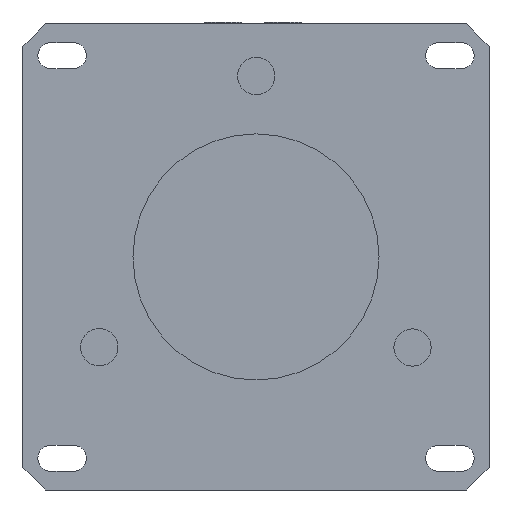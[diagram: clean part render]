
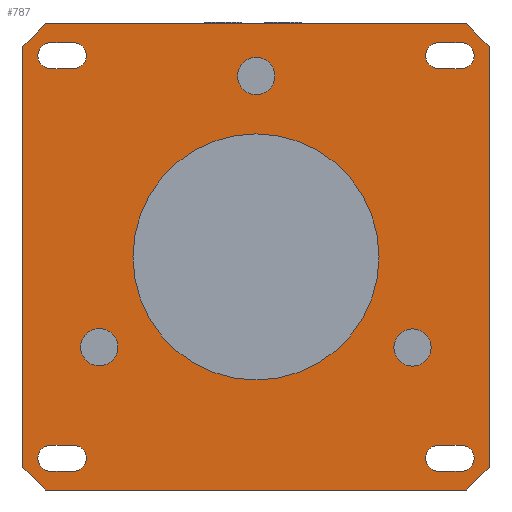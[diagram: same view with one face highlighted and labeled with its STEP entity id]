
A CAD part, front view. The second image highlights one B-rep face of the part: STEP entity #787.
In plain terms, the highlighted planar face has unit normal (0, -1, 0).
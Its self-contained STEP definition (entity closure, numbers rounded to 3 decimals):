
#301=FACE_BOUND('',#1149,.T.);
#302=FACE_BOUND('',#1150,.T.);
#303=FACE_BOUND('',#1151,.T.);
#304=FACE_BOUND('',#1152,.T.);
#305=FACE_BOUND('',#1153,.T.);
#306=FACE_BOUND('',#1154,.T.);
#307=FACE_BOUND('',#1155,.T.);
#308=FACE_BOUND('',#1156,.T.);
#309=FACE_BOUND('',#1157,.T.);
#490=LINE('',#3774,#642);
#491=LINE('',#3778,#643);
#492=LINE('',#3782,#644);
#493=LINE('',#3786,#645);
#494=LINE('',#3790,#646);
#495=LINE('',#3794,#647);
#496=LINE('',#3795,#648);
#497=LINE('',#3800,#649);
#498=LINE('',#3805,#650);
#499=LINE('',#3808,#651);
#500=LINE('',#3810,#652);
#501=LINE('',#3812,#653);
#502=LINE('',#3814,#654);
#503=LINE('',#3816,#655);
#504=LINE('',#3818,#656);
#505=LINE('',#3820,#657);
#642=VECTOR('',#3135,1.);
#643=VECTOR('',#3138,1.);
#644=VECTOR('',#3141,1.);
#645=VECTOR('',#3144,1.);
#646=VECTOR('',#3147,1.);
#647=VECTOR('',#3150,1.);
#648=VECTOR('',#3151,1.);
#649=VECTOR('',#3154,1.);
#650=VECTOR('',#3159,1.);
#651=VECTOR('',#3160,1.);
#652=VECTOR('',#3161,1.);
#653=VECTOR('',#3162,1.);
#654=VECTOR('',#3163,1.);
#655=VECTOR('',#3164,1.);
#656=VECTOR('',#3165,1.);
#657=VECTOR('',#3166,1.);
#787=ADVANCED_FACE('',(#301,#302,#303,#304,#305,#306,#307,#308,#309),#873,
 .T.);
#873=PLANE('',#2558);
#1149=EDGE_LOOP('',(#1602,#1603,#1604,#1605));
#1150=EDGE_LOOP('',(#1606,#1607,#1608,#1609));
#1151=EDGE_LOOP('',(#1610,#1611,#1612,#1613));
#1152=EDGE_LOOP('',(#1614,#1615,#1616,#1617));
#1153=EDGE_LOOP('',(#1618));
#1154=EDGE_LOOP('',(#1619,#1620,#1621,#1622,#1623,#1624,#1625,#1626));
#1155=EDGE_LOOP('',(#1627));
#1156=EDGE_LOOP('',(#1628));
#1157=EDGE_LOOP('',(#1629));
#1602=ORIENTED_EDGE('',*,*,#2163,.F.);
#1603=ORIENTED_EDGE('',*,*,#2164,.F.);
#1604=ORIENTED_EDGE('',*,*,#2165,.F.);
#1605=ORIENTED_EDGE('',*,*,#2166,.F.);
#1606=ORIENTED_EDGE('',*,*,#2167,.F.);
#1607=ORIENTED_EDGE('',*,*,#2168,.F.);
#1608=ORIENTED_EDGE('',*,*,#2169,.F.);
#1609=ORIENTED_EDGE('',*,*,#2170,.F.);
#1610=ORIENTED_EDGE('',*,*,#2171,.F.);
#1611=ORIENTED_EDGE('',*,*,#2172,.F.);
#1612=ORIENTED_EDGE('',*,*,#2173,.F.);
#1613=ORIENTED_EDGE('',*,*,#2174,.F.);
#1614=ORIENTED_EDGE('',*,*,#2175,.F.);
#1615=ORIENTED_EDGE('',*,*,#2176,.F.);
#1616=ORIENTED_EDGE('',*,*,#2177,.F.);
#1617=ORIENTED_EDGE('',*,*,#2178,.F.);
#1618=ORIENTED_EDGE('',*,*,#2179,.F.);
#1619=ORIENTED_EDGE('',*,*,#2180,.F.);
#1620=ORIENTED_EDGE('',*,*,#2181,.F.);
#1621=ORIENTED_EDGE('',*,*,#2182,.F.);
#1622=ORIENTED_EDGE('',*,*,#2183,.F.);
#1623=ORIENTED_EDGE('',*,*,#2184,.F.);
#1624=ORIENTED_EDGE('',*,*,#2185,.F.);
#1625=ORIENTED_EDGE('',*,*,#2186,.F.);
#1626=ORIENTED_EDGE('',*,*,#2187,.F.);
#1627=ORIENTED_EDGE('',*,*,#2137,.F.);
#1628=ORIENTED_EDGE('',*,*,#2135,.F.);
#1629=ORIENTED_EDGE('',*,*,#2133,.F.);
#1885=VERTEX_POINT('',#3708);
#1887=VERTEX_POINT('',#3713);
#1889=VERTEX_POINT('',#3718);
#1915=VERTEX_POINT('',#3772);
#1916=VERTEX_POINT('',#3773);
#1917=VERTEX_POINT('',#3775);
#1918=VERTEX_POINT('',#3777);
#1919=VERTEX_POINT('',#3780);
#1920=VERTEX_POINT('',#3781);
#1921=VERTEX_POINT('',#3783);
#1922=VERTEX_POINT('',#3785);
#1923=VERTEX_POINT('',#3788);
#1924=VERTEX_POINT('',#3789);
#1925=VERTEX_POINT('',#3791);
#1926=VERTEX_POINT('',#3793);
#1927=VERTEX_POINT('',#3796);
#1928=VERTEX_POINT('',#3797);
#1929=VERTEX_POINT('',#3799);
#1930=VERTEX_POINT('',#3801);
#1931=VERTEX_POINT('',#3804);
#1932=VERTEX_POINT('',#3806);
#1933=VERTEX_POINT('',#3807);
#1934=VERTEX_POINT('',#3809);
#1935=VERTEX_POINT('',#3811);
#1936=VERTEX_POINT('',#3813);
#1937=VERTEX_POINT('',#3815);
#1938=VERTEX_POINT('',#3817);
#1939=VERTEX_POINT('',#3819);
#2133=EDGE_CURVE('',#1885,#1885,#2309,.T.);
#2135=EDGE_CURVE('',#1887,#1887,#2311,.T.);
#2137=EDGE_CURVE('',#1889,#1889,#2313,.T.);
#2163=EDGE_CURVE('',#1915,#1916,#2323,.T.);
#2164=EDGE_CURVE('',#1917,#1915,#490,.T.);
#2165=EDGE_CURVE('',#1918,#1917,#2324,.T.);
#2166=EDGE_CURVE('',#1916,#1918,#491,.T.);
#2167=EDGE_CURVE('',#1919,#1920,#2325,.T.);
#2168=EDGE_CURVE('',#1921,#1919,#492,.T.);
#2169=EDGE_CURVE('',#1922,#1921,#2326,.T.);
#2170=EDGE_CURVE('',#1920,#1922,#493,.T.);
#2171=EDGE_CURVE('',#1923,#1924,#2327,.T.);
#2172=EDGE_CURVE('',#1925,#1923,#494,.T.);
#2173=EDGE_CURVE('',#1926,#1925,#2328,.T.);
#2174=EDGE_CURVE('',#1924,#1926,#495,.T.);
#2175=EDGE_CURVE('',#1927,#1928,#496,.T.);
#2176=EDGE_CURVE('',#1929,#1927,#2329,.T.);
#2177=EDGE_CURVE('',#1930,#1929,#497,.T.);
#2178=EDGE_CURVE('',#1928,#1930,#2330,.T.);
#2179=EDGE_CURVE('',#1931,#1931,#2331,.T.);
#2180=EDGE_CURVE('',#1932,#1933,#498,.T.);
#2181=EDGE_CURVE('',#1934,#1932,#499,.T.);
#2182=EDGE_CURVE('',#1935,#1934,#500,.T.);
#2183=EDGE_CURVE('',#1936,#1935,#501,.T.);
#2184=EDGE_CURVE('',#1937,#1936,#502,.T.);
#2185=EDGE_CURVE('',#1938,#1937,#503,.T.);
#2186=EDGE_CURVE('',#1939,#1938,#504,.T.);
#2187=EDGE_CURVE('',#1933,#1939,#505,.T.);
#2309=CIRCLE('',#2531,5.);
#2311=CIRCLE('',#2534,5.);
#2313=CIRCLE('',#2537,5.);
#2323=CIRCLE('',#2549,3.5);
#2324=CIRCLE('',#2550,3.5);
#2325=CIRCLE('',#2551,3.5);
#2326=CIRCLE('',#2552,3.5);
#2327=CIRCLE('',#2553,3.5);
#2328=CIRCLE('',#2554,3.5);
#2329=CIRCLE('',#2555,3.5);
#2330=CIRCLE('',#2556,3.5);
#2331=CIRCLE('',#2557,33.);
#2531=AXIS2_PLACEMENT_3D('',#3707,#3081,#3082);
#2534=AXIS2_PLACEMENT_3D('',#3712,#3087,#3088);
#2537=AXIS2_PLACEMENT_3D('',#3717,#3093,#3094);
#2549=AXIS2_PLACEMENT_3D('',#3771,#3133,#3134);
#2550=AXIS2_PLACEMENT_3D('',#3776,#3136,#3137);
#2551=AXIS2_PLACEMENT_3D('',#3779,#3139,#3140);
#2552=AXIS2_PLACEMENT_3D('',#3784,#3142,#3143);
#2553=AXIS2_PLACEMENT_3D('',#3787,#3145,#3146);
#2554=AXIS2_PLACEMENT_3D('',#3792,#3148,#3149);
#2555=AXIS2_PLACEMENT_3D('',#3798,#3152,#3153);
#2556=AXIS2_PLACEMENT_3D('',#3802,#3155,#3156);
#2557=AXIS2_PLACEMENT_3D('',#3803,#3157,#3158);
#2558=AXIS2_PLACEMENT_3D('',#3821,#3167,#3168);
#3081=DIRECTION('',(0.,-1.,0.));
#3082=DIRECTION('',(0.,0.,-1.));
#3087=DIRECTION('',(0.,-1.,0.));
#3088=DIRECTION('',(0.,0.,-1.));
#3093=DIRECTION('',(0.,-1.,0.));
#3094=DIRECTION('',(0.,0.,-1.));
#3133=DIRECTION('',(0.,-1.,0.));
#3134=DIRECTION('',(1.,0.,0.));
#3135=DIRECTION('',(-1.,0.,0.));
#3136=DIRECTION('',(0.,-1.,0.));
#3137=DIRECTION('',(1.,0.,0.));
#3138=DIRECTION('',(1.,0.,0.));
#3139=DIRECTION('',(0.,-1.,0.));
#3140=DIRECTION('',(1.,0.,0.));
#3141=DIRECTION('',(-1.,0.,0.));
#3142=DIRECTION('',(0.,-1.,0.));
#3143=DIRECTION('',(1.,0.,0.));
#3144=DIRECTION('',(1.,0.,0.));
#3145=DIRECTION('',(0.,-1.,0.));
#3146=DIRECTION('',(1.,0.,0.));
#3147=DIRECTION('',(-1.,0.,0.));
#3148=DIRECTION('',(0.,-1.,0.));
#3149=DIRECTION('',(1.,0.,0.));
#3150=DIRECTION('',(1.,0.,0.));
#3151=DIRECTION('',(1.,0.,0.));
#3152=DIRECTION('',(0.,-1.,0.));
#3153=DIRECTION('',(1.,0.,0.));
#3154=DIRECTION('',(-1.,0.,0.));
#3155=DIRECTION('',(0.,-1.,0.));
#3156=DIRECTION('',(1.,0.,0.));
#3157=DIRECTION('',(0.,-1.,0.));
#3158=DIRECTION('',(1.,0.,0.));
#3159=DIRECTION('',(0.,0.,1.));
#3160=DIRECTION('',(-0.707,0.,0.707));
#3161=DIRECTION('',(-1.,0.,0.));
#3162=DIRECTION('',(-0.707,0.,-0.707));
#3163=DIRECTION('',(0.,0.,-1.));
#3164=DIRECTION('',(0.707,0.,-0.707));
#3165=DIRECTION('',(1.,0.,0.));
#3166=DIRECTION('',(0.707,0.,0.707));
#3167=DIRECTION('',(0.,-1.,0.));
#3168=DIRECTION('',(0.,0.,1.));
#3707=CARTESIAN_POINT('',(534.019,-1263.481,-24.296));
#3708=CARTESIAN_POINT('',(534.019,-1263.481,-29.296));
#3712=CARTESIAN_POINT('',(450.015,-1263.481,-24.204));
#3713=CARTESIAN_POINT('',(450.015,-1263.481,-29.204));
#3717=CARTESIAN_POINT('',(492.096,-1263.481,48.5));
#3718=CARTESIAN_POINT('',(492.096,-1263.481,43.5));
#3771=CARTESIAN_POINT('',(541.043,-1263.481,54.));
#3772=CARTESIAN_POINT('',(541.043,-1263.481,57.5));
#3773=CARTESIAN_POINT('',(541.043,-1263.481,50.5));
#3774=CARTESIAN_POINT('',(547.043,-1263.481,57.5));
#3775=CARTESIAN_POINT('',(547.043,-1263.481,57.5));
#3776=CARTESIAN_POINT('',(547.043,-1263.481,54.));
#3777=CARTESIAN_POINT('',(547.043,-1263.481,50.5));
#3778=CARTESIAN_POINT('',(541.043,-1263.481,50.5));
#3779=CARTESIAN_POINT('',(541.043,-1263.481,-54.));
#3780=CARTESIAN_POINT('',(541.043,-1263.481,-50.5));
#3781=CARTESIAN_POINT('',(541.043,-1263.481,-57.5));
#3782=CARTESIAN_POINT('',(547.043,-1263.481,-50.5));
#3783=CARTESIAN_POINT('',(547.043,-1263.481,-50.5));
#3784=CARTESIAN_POINT('',(547.043,-1263.481,-54.));
#3785=CARTESIAN_POINT('',(547.043,-1263.481,-57.5));
#3786=CARTESIAN_POINT('',(541.043,-1263.481,-57.5));
#3787=CARTESIAN_POINT('',(437.043,-1263.481,54.));
#3788=CARTESIAN_POINT('',(437.043,-1263.481,57.5));
#3789=CARTESIAN_POINT('',(437.043,-1263.481,50.5));
#3790=CARTESIAN_POINT('',(443.043,-1263.481,57.5));
#3791=CARTESIAN_POINT('',(443.043,-1263.481,57.5));
#3792=CARTESIAN_POINT('',(443.043,-1263.481,54.));
#3793=CARTESIAN_POINT('',(443.043,-1263.481,50.5));
#3794=CARTESIAN_POINT('',(437.043,-1263.481,50.5));
#3795=CARTESIAN_POINT('',(437.043,-1263.481,-57.5));
#3796=CARTESIAN_POINT('',(437.043,-1263.481,-57.5));
#3797=CARTESIAN_POINT('',(443.043,-1263.481,-57.5));
#3798=CARTESIAN_POINT('',(437.043,-1263.481,-54.));
#3799=CARTESIAN_POINT('',(437.043,-1263.481,-50.5));
#3800=CARTESIAN_POINT('',(443.043,-1263.481,-50.5));
#3801=CARTESIAN_POINT('',(443.043,-1263.481,-50.5));
#3802=CARTESIAN_POINT('',(443.043,-1263.481,-54.));
#3803=CARTESIAN_POINT('',(492.043,-1263.481,0.));
#3804=CARTESIAN_POINT('',(525.043,-1263.481,0.));
#3805=CARTESIAN_POINT('',(429.543,-1263.481,-56.5));
#3806=CARTESIAN_POINT('',(429.543,-1263.481,-56.5));
#3807=CARTESIAN_POINT('',(429.543,-1263.481,56.5));
#3808=CARTESIAN_POINT('',(435.543,-1263.481,-62.5));
#3809=CARTESIAN_POINT('',(435.543,-1263.481,-62.5));
#3810=CARTESIAN_POINT('',(548.543,-1263.481,-62.5));
#3811=CARTESIAN_POINT('',(548.543,-1263.481,-62.5));
#3812=CARTESIAN_POINT('',(554.543,-1263.481,-56.5));
#3813=CARTESIAN_POINT('',(554.543,-1263.481,-56.5));
#3814=CARTESIAN_POINT('',(554.543,-1263.481,56.5));
#3815=CARTESIAN_POINT('',(554.543,-1263.481,56.5));
#3816=CARTESIAN_POINT('',(548.543,-1263.481,62.5));
#3817=CARTESIAN_POINT('',(548.543,-1263.481,62.5));
#3818=CARTESIAN_POINT('',(435.543,-1263.481,62.5));
#3819=CARTESIAN_POINT('',(435.543,-1263.481,62.5));
#3820=CARTESIAN_POINT('',(429.543,-1263.481,56.5));
#3821=CARTESIAN_POINT('',(492.043,-1263.481,0.));
